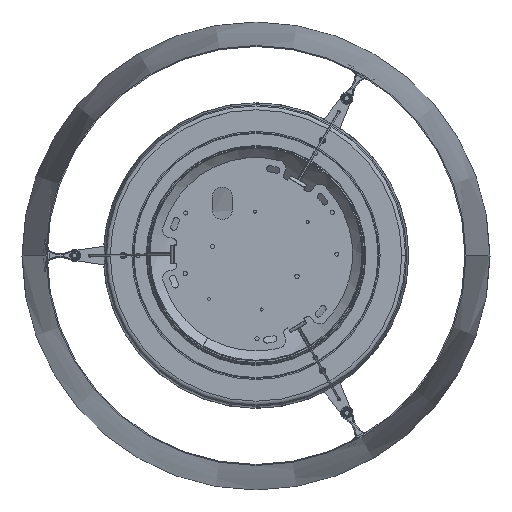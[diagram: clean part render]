
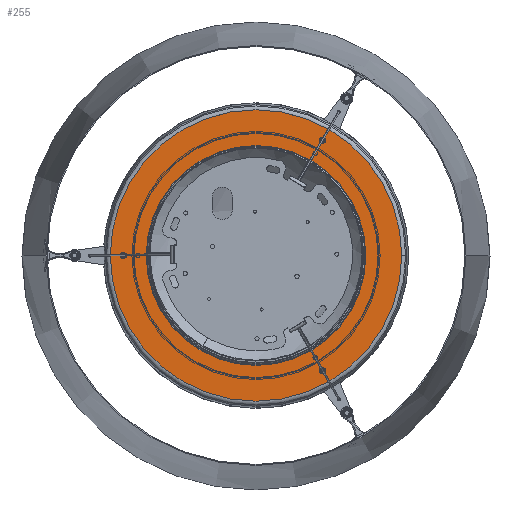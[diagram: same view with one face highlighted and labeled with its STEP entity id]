
A CAD part, top view. The second image highlights one B-rep face of the part: STEP entity #255.
In plain terms, the highlighted planar face has unit normal (0, 0, 1).
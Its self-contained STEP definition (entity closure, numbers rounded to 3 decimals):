
#235 = CIRCLE ( 'NONE', #47135, 108. ) ;
#255 = ADVANCED_FACE ( 'NONE', ( #19806, #16091, #43867, #48373, #44896 ), #28116, .F. ) ;
#751 = EDGE_CURVE ( 'NONE', #3302, #25419, #10266, .T. ) ;
#819 = CARTESIAN_POINT ( 'NONE',  ( -217.799, -6.708, 328.638 ) ) ;
#946 = EDGE_CURVE ( 'NONE', #40663, #24285, #34097, .T. ) ;
#1170 = VERTEX_POINT ( 'NONE', #50740 ) ;
#1231 = CARTESIAN_POINT ( 'NONE',  ( -205.068, -6.708, 328.638 ) ) ;
#1906 = CIRCLE ( 'NONE', #31758, 143.231 ) ;
#3302 = VERTEX_POINT ( 'NONE', #26117 ) ;
#5125 = DIRECTION ( 'NONE',  ( 0., 0., -1. ) ) ;
#5629 = CIRCLE ( 'NONE', #52548, 3.15 ) ;
#5956 = EDGE_CURVE ( 'NONE', #23930, #1170, #235, .T. ) ;
#6410 = CIRCLE ( 'NONE', #26003, 108. ) ;
#6961 = CARTESIAN_POINT ( 'NONE',  ( -74.568, -6.708, 328.638 ) ) ;
#7661 = CARTESIAN_POINT ( 'NONE',  ( -9.318, -119.724, 328.638 ) ) ;
#8622 = DIRECTION ( 'NONE',  ( 1., 0., 0. ) ) ;
#9264 = DIRECTION ( 'NONE',  ( 0., 0., -1. ) ) ;
#9330 = AXIS2_PLACEMENT_3D ( 'NONE', #1231, #50599, #50091 ) ;
#10266 = CIRCLE ( 'NONE', #11100, 3.15 ) ;
#10552 = CARTESIAN_POINT ( 'NONE',  ( -12.468, -119.724, 328.638 ) ) ;
#10764 = EDGE_CURVE ( 'NONE', #42635, #20900, #5629, .T. ) ;
#11100 = AXIS2_PLACEMENT_3D ( 'NONE', #7661, #44212, #24428 ) ;
#11230 = DIRECTION ( 'NONE',  ( 1., 0., 0. ) ) ;
#11970 = ORIENTED_EDGE ( 'NONE', *, *, #36571, .T. ) ;
#12705 = CIRCLE ( 'NONE', #9330, 3.15 ) ;
#13652 = DIRECTION ( 'NONE',  ( 0., 0., -1. ) ) ;
#13835 = EDGE_CURVE ( 'NONE', #24285, #40663, #1906, .T. ) ;
#15109 = EDGE_CURVE ( 'NONE', #25419, #3302, #30124, .T. ) ;
#15211 = CARTESIAN_POINT ( 'NONE',  ( -9.318, 106.308, 328.638 ) ) ;
#15447 = DIRECTION ( 'NONE',  ( 1., 0., 0. ) ) ;
#16091 = FACE_BOUND ( 'NONE', #23233, .T. ) ;
#16595 = ORIENTED_EDGE ( 'NONE', *, *, #10764, .T. ) ;
#16978 = AXIS2_PLACEMENT_3D ( 'NONE', #25136, #13652, #8622 ) ;
#16989 = DIRECTION ( 'NONE',  ( 1., 0., 0. ) ) ;
#17160 = EDGE_LOOP ( 'NONE', ( #26986, #37336 ) ) ;
#17505 = CARTESIAN_POINT ( 'NONE',  ( -205.068, -6.708, 328.638 ) ) ;
#18778 = VERTEX_POINT ( 'NONE', #20381 ) ;
#19806 = FACE_BOUND ( 'NONE', #28100, .T. ) ;
#20381 = CARTESIAN_POINT ( 'NONE',  ( -12.468, 106.308, 328.638 ) ) ;
#20900 = VERTEX_POINT ( 'NONE', #28843 ) ;
#21670 = ORIENTED_EDGE ( 'NONE', *, *, #40479, .T. ) ;
#21760 = CARTESIAN_POINT ( 'NONE',  ( -6.168, 106.308, 328.638 ) ) ;
#22233 = AXIS2_PLACEMENT_3D ( 'NONE', #15211, #47784, #11230 ) ;
#22317 = DIRECTION ( 'NONE',  ( -1., 0., 0. ) ) ;
#22576 = DIRECTION ( 'NONE',  ( 0., 0., 1. ) ) ;
#23207 = DIRECTION ( 'NONE',  ( -1., 0., 0. ) ) ;
#23233 = EDGE_LOOP ( 'NONE', ( #39115, #16595 ) ) ;
#23692 = ORIENTED_EDGE ( 'NONE', *, *, #15109, .T. ) ;
#23930 = VERTEX_POINT ( 'NONE', #48756 ) ;
#24220 = DIRECTION ( 'NONE',  ( 0., 0., -1. ) ) ;
#24285 = VERTEX_POINT ( 'NONE', #819 ) ;
#24428 = DIRECTION ( 'NONE',  ( 1., 0., 0. ) ) ;
#24546 = CIRCLE ( 'NONE', #51813, 3.15 ) ;
#25136 = CARTESIAN_POINT ( 'NONE',  ( 68.663, -6.708, 328.638 ) ) ;
#25419 = VERTEX_POINT ( 'NONE', #10552 ) ;
#25801 = CARTESIAN_POINT ( 'NONE',  ( 68.663, -6.708, 328.638 ) ) ;
#26003 = AXIS2_PLACEMENT_3D ( 'NONE', #6961, #40026, #23207 ) ;
#26117 = CARTESIAN_POINT ( 'NONE',  ( -6.168, -119.724, 328.638 ) ) ;
#26484 = DIRECTION ( 'NONE',  ( 1., 0., 0. ) ) ;
#26986 = ORIENTED_EDGE ( 'NONE', *, *, #5956, .F. ) ;
#27053 = DIRECTION ( 'NONE',  ( 0., 0., 1. ) ) ;
#28100 = EDGE_LOOP ( 'NONE', ( #21670, #11970 ) ) ;
#28116 = PLANE ( 'NONE',  #16978 ) ;
#28843 = CARTESIAN_POINT ( 'NONE',  ( -208.218, -6.708, 328.638 ) ) ;
#30124 = CIRCLE ( 'NONE', #51452, 3.15 ) ;
#30780 = ORIENTED_EDGE ( 'NONE', *, *, #13835, .T. ) ;
#31758 = AXIS2_PLACEMENT_3D ( 'NONE', #39095, #22576, #22317 ) ;
#32967 = EDGE_CURVE ( 'NONE', #1170, #23930, #6410, .T. ) ;
#34097 = CIRCLE ( 'NONE', #40972, 143.231 ) ;
#34504 = DIRECTION ( 'NONE',  ( -1., 0., 0. ) ) ;
#34779 = CARTESIAN_POINT ( 'NONE',  ( -74.568, -6.708, 328.638 ) ) ;
#35578 = CARTESIAN_POINT ( 'NONE',  ( -74.568, -6.708, 328.638 ) ) ;
#36233 = CARTESIAN_POINT ( 'NONE',  ( -9.318, 106.308, 328.638 ) ) ;
#36571 = EDGE_CURVE ( 'NONE', #39784, #18778, #45262, .T. ) ;
#37336 = ORIENTED_EDGE ( 'NONE', *, *, #32967, .F. ) ;
#37616 = EDGE_LOOP ( 'NONE', ( #30780, #51995 ) ) ;
#39095 = CARTESIAN_POINT ( 'NONE',  ( -74.568, -6.708, 328.638 ) ) ;
#39115 = ORIENTED_EDGE ( 'NONE', *, *, #50517, .T. ) ;
#39784 = VERTEX_POINT ( 'NONE', #21760 ) ;
#40026 = DIRECTION ( 'NONE',  ( 0., 0., 1. ) ) ;
#40479 = EDGE_CURVE ( 'NONE', #18778, #39784, #24546, .T. ) ;
#40663 = VERTEX_POINT ( 'NONE', #25801 ) ;
#40972 = AXIS2_PLACEMENT_3D ( 'NONE', #35578, #27053, #51350 ) ;
#42635 = VERTEX_POINT ( 'NONE', #45993 ) ;
#43867 = FACE_BOUND ( 'NONE', #52071, .T. ) ;
#44212 = DIRECTION ( 'NONE',  ( 0., 0., -1. ) ) ;
#44896 = FACE_OUTER_BOUND ( 'NONE', #37616, .T. ) ;
#45262 = CIRCLE ( 'NONE', #22233, 3.15 ) ;
#45688 = CARTESIAN_POINT ( 'NONE',  ( -9.318, -119.724, 328.638 ) ) ;
#45993 = CARTESIAN_POINT ( 'NONE',  ( -201.918, -6.708, 328.638 ) ) ;
#47135 = AXIS2_PLACEMENT_3D ( 'NONE', #34779, #51088, #34504 ) ;
#47784 = DIRECTION ( 'NONE',  ( 0., 0., -1. ) ) ;
#48373 = FACE_BOUND ( 'NONE', #17160, .T. ) ;
#48756 = CARTESIAN_POINT ( 'NONE',  ( -182.568, -6.708, 328.638 ) ) ;
#50091 = DIRECTION ( 'NONE',  ( 1., 0., 0. ) ) ;
#50517 = EDGE_CURVE ( 'NONE', #20900, #42635, #12705, .T. ) ;
#50599 = DIRECTION ( 'NONE',  ( 0., 0., -1. ) ) ;
#50740 = CARTESIAN_POINT ( 'NONE',  ( 33.432, -6.708, 328.638 ) ) ;
#50899 = ORIENTED_EDGE ( 'NONE', *, *, #751, .T. ) ;
#51088 = DIRECTION ( 'NONE',  ( 0., 0., 1. ) ) ;
#51350 = DIRECTION ( 'NONE',  ( -1., 0., 0. ) ) ;
#51452 = AXIS2_PLACEMENT_3D ( 'NONE', #45688, #5125, #26484 ) ;
#51813 = AXIS2_PLACEMENT_3D ( 'NONE', #36233, #24220, #15447 ) ;
#51995 = ORIENTED_EDGE ( 'NONE', *, *, #946, .T. ) ;
#52071 = EDGE_LOOP ( 'NONE', ( #23692, #50899 ) ) ;
#52548 = AXIS2_PLACEMENT_3D ( 'NONE', #17505, #9264, #16989 ) ;
